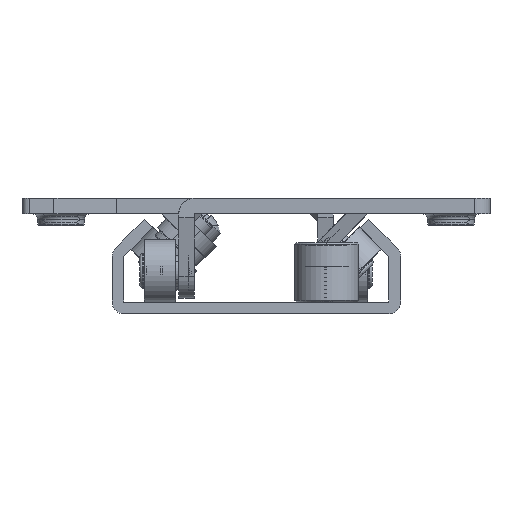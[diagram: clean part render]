
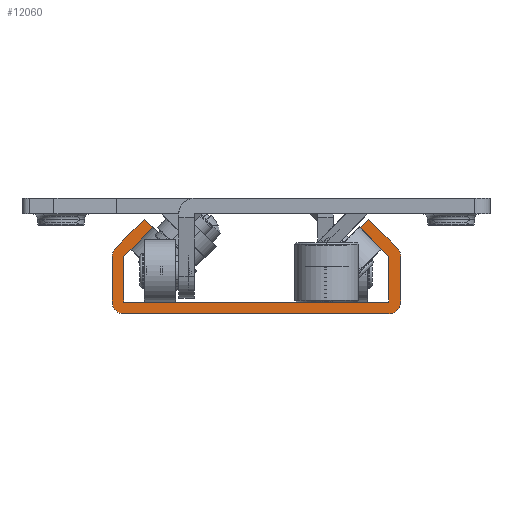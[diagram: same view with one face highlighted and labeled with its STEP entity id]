
A CAD part, left-side view. The second image highlights one B-rep face of the part: STEP entity #12060.
In plain terms, the highlighted planar face has unit normal (-1, 0, 0).
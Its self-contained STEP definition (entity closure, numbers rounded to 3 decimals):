
#11921=CARTESIAN_POINT('',(6.032,-261.972,-18.688));
#11922=VERTEX_POINT('',#11921);
#11923=CARTESIAN_POINT('',(6.032,-260.912,-17.627));
#11924=VERTEX_POINT('',#11923);
#11925=CARTESIAN_POINT('',(6.032,-261.972,-18.688));
#11926=DIRECTION('',(0.,0.707,0.707));
#11927=VECTOR('',#11926,1.);
#11928=LINE('',#11925,#11927);
#11929=EDGE_CURVE('',#11922,#11924,#11928,.T.);
#11930=ORIENTED_EDGE('',*,*,#11929,.T.);
#11931=CARTESIAN_POINT('',(6.032,-257.23,-21.309));
#11932=VERTEX_POINT('',#11931);
#11933=CARTESIAN_POINT('',(6.032,-257.23,-21.309));
#11934=DIRECTION('',(0.,-0.707,0.707));
#11935=VECTOR('',#11934,1.);
#11936=LINE('',#11933,#11935);
#11937=EDGE_CURVE('',#11932,#11924,#11936,.T.);
#11938=ORIENTED_EDGE('',*,*,#11937,.F.);
#11939=CARTESIAN_POINT('',(6.032,-256.79,-22.37));
#11940=VERTEX_POINT('',#11939);
#11941=CARTESIAN_POINT('',(6.032,-258.29,-22.37));
#11942=DIRECTION('',(1.,0.,0.));
#11943=DIRECTION('',(0.,0.,1.));
#11944=AXIS2_PLACEMENT_3D('',#11941,#11942,#11943);
#11945=CIRCLE('',#11944,1.5);
#11946=EDGE_CURVE('',#11940,#11932,#11945,.T.);
#11947=ORIENTED_EDGE('',*,*,#11946,.F.);
#11948=CARTESIAN_POINT('',(6.032,-256.79,-28.214));
#11949=VERTEX_POINT('',#11948);
#11950=CARTESIAN_POINT('',(6.032,-256.79,-28.214));
#11951=DIRECTION('',(0.,0.,1.));
#11952=VECTOR('',#11951,1.);
#11953=LINE('',#11950,#11952);
#11954=EDGE_CURVE('',#11949,#11940,#11953,.T.);
#11955=ORIENTED_EDGE('',*,*,#11954,.F.);
#11956=CARTESIAN_POINT('',(6.032,-258.29,-29.714));
#11957=VERTEX_POINT('',#11956);
#11958=CARTESIAN_POINT('',(6.032,-258.29,-28.214));
#11959=DIRECTION('',(1.,0.,0.));
#11960=DIRECTION('',(0.,1.,0.));
#11961=AXIS2_PLACEMENT_3D('',#11958,#11959,#11960);
#11962=CIRCLE('',#11961,1.5);
#11963=EDGE_CURVE('',#11957,#11949,#11962,.T.);
#11964=ORIENTED_EDGE('',*,*,#11963,.F.);
#11965=CARTESIAN_POINT('',(6.032,-292.29,-29.714));
#11966=VERTEX_POINT('',#11965);
#11967=CARTESIAN_POINT('',(6.032,-292.29,-29.714));
#11968=DIRECTION('',(0.,1.,0.));
#11969=VECTOR('',#11968,1.);
#11970=LINE('',#11967,#11969);
#11971=EDGE_CURVE('',#11966,#11957,#11970,.T.);
#11972=ORIENTED_EDGE('',*,*,#11971,.F.);
#11973=CARTESIAN_POINT('',(6.032,-293.79,-28.214));
#11974=VERTEX_POINT('',#11973);
#11975=CARTESIAN_POINT('',(6.032,-292.29,-28.214));
#11976=DIRECTION('',(1.,0.,0.));
#11977=DIRECTION('',(0.,1.,0.));
#11978=AXIS2_PLACEMENT_3D('',#11975,#11976,#11977);
#11979=CIRCLE('',#11978,1.5);
#11980=EDGE_CURVE('',#11974,#11966,#11979,.T.);
#11981=ORIENTED_EDGE('',*,*,#11980,.F.);
#11982=CARTESIAN_POINT('',(6.032,-293.79,-22.37));
#11983=VERTEX_POINT('',#11982);
#11984=CARTESIAN_POINT('',(6.032,-293.79,-22.37));
#11985=DIRECTION('',(0.,0.,-1.));
#11986=VECTOR('',#11985,1.);
#11987=LINE('',#11984,#11986);
#11988=EDGE_CURVE('',#11983,#11974,#11987,.T.);
#11989=ORIENTED_EDGE('',*,*,#11988,.F.);
#11990=CARTESIAN_POINT('',(6.032,-293.351,-21.309));
#11991=VERTEX_POINT('',#11990);
#11992=CARTESIAN_POINT('',(6.032,-292.29,-22.37));
#11993=DIRECTION('',(1.,0.,0.));
#11994=DIRECTION('',(0.,0.,1.));
#11995=AXIS2_PLACEMENT_3D('',#11992,#11993,#11994);
#11996=CIRCLE('',#11995,1.5);
#11997=EDGE_CURVE('',#11991,#11983,#11996,.T.);
#11998=ORIENTED_EDGE('',*,*,#11997,.F.);
#11999=CARTESIAN_POINT('',(6.032,-289.669,-17.627));
#12000=VERTEX_POINT('',#11999);
#12001=CARTESIAN_POINT('',(6.032,-289.669,-17.627));
#12002=DIRECTION('',(0.,-0.707,-0.707));
#12003=VECTOR('',#12002,1.);
#12004=LINE('',#12001,#12003);
#12005=EDGE_CURVE('',#12000,#11991,#12004,.T.);
#12006=ORIENTED_EDGE('',*,*,#12005,.F.);
#12007=CARTESIAN_POINT('',(6.032,-288.608,-18.688));
#12008=VERTEX_POINT('',#12007);
#12009=CARTESIAN_POINT('',(6.032,-289.669,-17.627));
#12010=DIRECTION('',(0.,0.707,-0.707));
#12011=VECTOR('',#12010,1.);
#12012=LINE('',#12009,#12011);
#12013=EDGE_CURVE('',#12000,#12008,#12012,.T.);
#12014=ORIENTED_EDGE('',*,*,#12013,.T.);
#12015=CARTESIAN_POINT('',(6.032,-292.29,-22.37));
#12016=VERTEX_POINT('',#12015);
#12017=CARTESIAN_POINT('',(6.032,-292.29,-22.37));
#12018=DIRECTION('',(0.,0.707,0.707));
#12019=VECTOR('',#12018,1.);
#12020=LINE('',#12017,#12019);
#12021=EDGE_CURVE('',#12016,#12008,#12020,.T.);
#12022=ORIENTED_EDGE('',*,*,#12021,.F.);
#12023=CARTESIAN_POINT('',(6.032,-292.29,-28.214));
#12024=VERTEX_POINT('',#12023);
#12025=CARTESIAN_POINT('',(6.032,-292.29,-28.214));
#12026=DIRECTION('',(0.,0.,1.));
#12027=VECTOR('',#12026,1.);
#12028=LINE('',#12025,#12027);
#12029=EDGE_CURVE('',#12024,#12016,#12028,.T.);
#12030=ORIENTED_EDGE('',*,*,#12029,.F.);
#12031=CARTESIAN_POINT('',(6.032,-258.29,-28.214));
#12032=VERTEX_POINT('',#12031);
#12033=CARTESIAN_POINT('',(6.032,-258.29,-28.214));
#12034=DIRECTION('',(0.,-1.,0.));
#12035=VECTOR('',#12034,1.);
#12036=LINE('',#12033,#12035);
#12037=EDGE_CURVE('',#12032,#12024,#12036,.T.);
#12038=ORIENTED_EDGE('',*,*,#12037,.F.);
#12039=CARTESIAN_POINT('',(6.032,-258.29,-22.37));
#12040=VERTEX_POINT('',#12039);
#12041=CARTESIAN_POINT('',(6.032,-258.29,-22.37));
#12042=DIRECTION('',(0.,0.,-1.));
#12043=VECTOR('',#12042,1.);
#12044=LINE('',#12041,#12043);
#12045=EDGE_CURVE('',#12040,#12032,#12044,.T.);
#12046=ORIENTED_EDGE('',*,*,#12045,.F.);
#12047=CARTESIAN_POINT('',(6.032,-261.972,-18.688));
#12048=DIRECTION('',(0.,0.707,-0.707));
#12049=VECTOR('',#12048,1.);
#12050=LINE('',#12047,#12049);
#12051=EDGE_CURVE('',#11922,#12040,#12050,.T.);
#12052=ORIENTED_EDGE('',*,*,#12051,.F.);
#12053=EDGE_LOOP('',(#11930,#11938,#11947,#11955,#11964,#11972,#11981,#11989,#11998,#12006,#12014,#12022,#12030,#12038,#12046,#12052));
#12054=FACE_OUTER_BOUND('',#12053,.T.);
#12055=CARTESIAN_POINT('',(6.032,-261.442,-18.157));
#12056=DIRECTION('',(1.,0.,0.));
#12057=DIRECTION('',(0.,-1.,0.));
#12058=AXIS2_PLACEMENT_3D('',#12055,#12056,#12057);
#12059=PLANE('',#12058);
#12060=ADVANCED_FACE('',(#12054),#12059,.F.);
